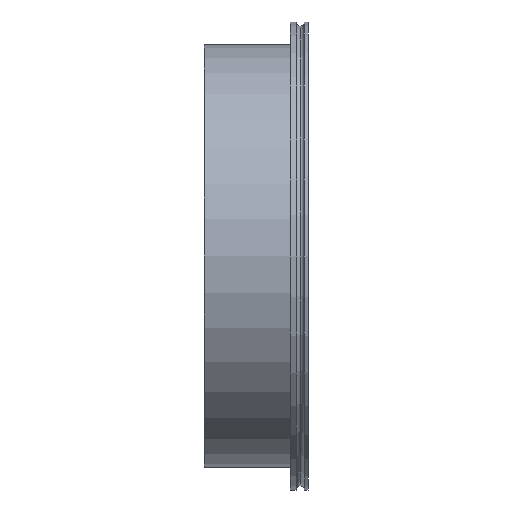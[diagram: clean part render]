
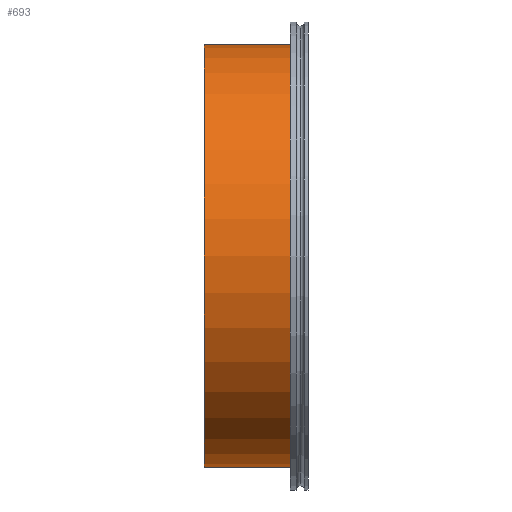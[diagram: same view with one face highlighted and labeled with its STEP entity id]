
A CAD part, left-side view. The second image highlights one B-rep face of the part: STEP entity #693.
In plain terms, the highlighted cylindrical face has radius 203 mm (diameter 406 mm), a partial arc.
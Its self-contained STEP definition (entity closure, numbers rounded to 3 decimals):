
#10 = CARTESIAN_POINT ( 'NONE',  ( 0., 100., 0. ) ) ;
#15 = DIRECTION ( 'NONE',  ( 0., 0., -1. ) ) ;
#36 = CARTESIAN_POINT ( 'NONE',  ( 0., 100., 0. ) ) ;
#80 = CARTESIAN_POINT ( 'NONE',  ( 0., 100., 203. ) ) ;
#81 = ORIENTED_EDGE ( 'NONE', *, *, #454, .T. ) ;
#88 = DIRECTION ( 'NONE',  ( 0., 1., 0. ) ) ;
#90 = DIRECTION ( 'NONE',  ( 0., 1., 0. ) ) ;
#98 = DIRECTION ( 'NONE',  ( 0., 0., 1. ) ) ;
#108 = CIRCLE ( 'NONE', #593, 203. ) ;
#115 = CYLINDRICAL_SURFACE ( 'NONE', #195, 203. ) ;
#150 = CARTESIAN_POINT ( 'NONE',  ( 0., 100., 203. ) ) ;
#160 = CIRCLE ( 'NONE', #220, 203. ) ;
#182 = VERTEX_POINT ( 'NONE', #357 ) ;
#195 = AXIS2_PLACEMENT_3D ( 'NONE', #10, #495, #15 ) ;
#212 = CARTESIAN_POINT ( 'NONE',  ( 0., 100., -203. ) ) ;
#220 = AXIS2_PLACEMENT_3D ( 'NONE', #255, #88, #303 ) ;
#245 = EDGE_CURVE ( 'NONE', #414, #539, #642, .T. ) ;
#255 = CARTESIAN_POINT ( 'NONE',  ( 0., 10., 0. ) ) ;
#261 = CARTESIAN_POINT ( 'NONE',  ( 0., 10., -203. ) ) ;
#297 = EDGE_CURVE ( 'NONE', #358, #539, #160, .T. ) ;
#303 = DIRECTION ( 'NONE',  ( 0., 0., 1. ) ) ;
#304 = EDGE_LOOP ( 'NONE', ( #325, #421, #81, #675 ) ) ;
#325 = ORIENTED_EDGE ( 'NONE', *, *, #245, .F. ) ;
#335 = EDGE_CURVE ( 'NONE', #182, #414, #108, .T. ) ;
#339 = FACE_OUTER_BOUND ( 'NONE', #304, .T. ) ;
#357 = CARTESIAN_POINT ( 'NONE',  ( 0., 100., -203. ) ) ;
#358 = VERTEX_POINT ( 'NONE', #261 ) ;
#371 = DIRECTION ( 'NONE',  ( 0., -1., 0. ) ) ;
#414 = VERTEX_POINT ( 'NONE', #150 ) ;
#421 = ORIENTED_EDGE ( 'NONE', *, *, #335, .F. ) ;
#441 = LINE ( 'NONE', #212, #513 ) ;
#454 = EDGE_CURVE ( 'NONE', #182, #358, #441, .T. ) ;
#455 = DIRECTION ( 'NONE',  ( 0., -1., 0. ) ) ;
#495 = DIRECTION ( 'NONE',  ( 0., -1., 0. ) ) ;
#504 = VECTOR ( 'NONE', #455, 1000. ) ;
#513 = VECTOR ( 'NONE', #371, 1000. ) ;
#539 = VERTEX_POINT ( 'NONE', #549 ) ;
#549 = CARTESIAN_POINT ( 'NONE',  ( 0., 10., 203. ) ) ;
#593 = AXIS2_PLACEMENT_3D ( 'NONE', #36, #90, #98 ) ;
#642 = LINE ( 'NONE', #80, #504 ) ;
#675 = ORIENTED_EDGE ( 'NONE', *, *, #297, .T. ) ;
#693 = ADVANCED_FACE ( 'NONE', ( #339 ), #115, .T. ) ;
